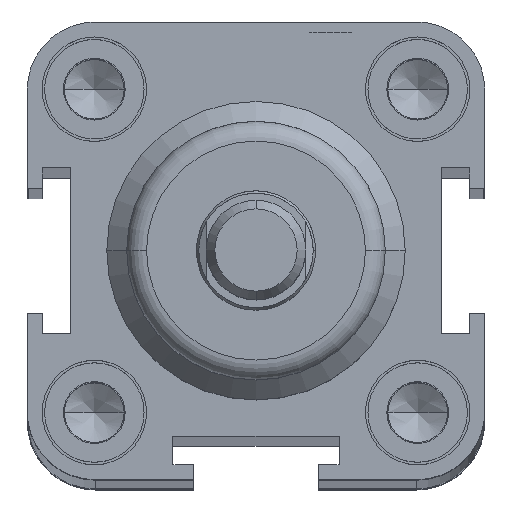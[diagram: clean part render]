
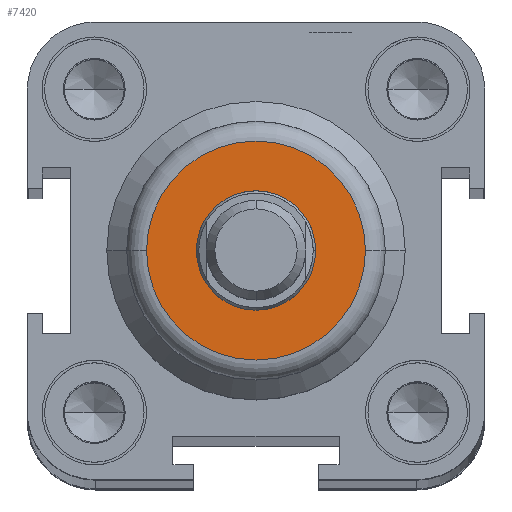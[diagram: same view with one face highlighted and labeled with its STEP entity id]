
A CAD part, top view. The second image highlights one B-rep face of the part: STEP entity #7420.
In plain terms, the highlighted planar face has unit normal (0, 0, 1).
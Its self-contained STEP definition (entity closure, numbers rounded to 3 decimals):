
#1472=CARTESIAN_POINT('',(-11.,0.0,313.));
#1473=VERTEX_POINT('',#1472);
#1481=CARTESIAN_POINT('',(11.,0.,313.0));
#1482=VERTEX_POINT('',#1481);
#1483=CARTESIAN_POINT('',(0.0,0.0,313.));
#1484=DIRECTION('',(0.0,0.0,-1.0));
#1485=DIRECTION('',(-1.0,0.0,0.0));
#1486=AXIS2_PLACEMENT_3D('',#1483,#1484,#1485);
#1487=CIRCLE('',#1486,11.);
#1488=EDGE_CURVE('',#1473,#1482,#1487,.T.);
#1593=CARTESIAN_POINT('',(6.,0.0,313.0));
#1594=VERTEX_POINT('',#1593);
#1610=CARTESIAN_POINT('',(-6.,0.,313.0));
#1611=VERTEX_POINT('',#1610);
#1618=CARTESIAN_POINT('',(0.0,0.0,313.0));
#1619=DIRECTION('',(0.0,0.0,-1.0));
#1620=DIRECTION('',(1.0,0.0,0.0));
#1621=AXIS2_PLACEMENT_3D('',#1618,#1619,#1620);
#1622=CIRCLE('',#1621,6.);
#1623=EDGE_CURVE('',#1594,#1611,#1622,.T.);
#7347=CARTESIAN_POINT('',(0.0,0.0,313.0));
#7348=DIRECTION('',(0.0,0.0,-1.0));
#7349=DIRECTION('',(1.0,0.0,0.0));
#7350=AXIS2_PLACEMENT_3D('',#7347,#7348,#7349);
#7351=CIRCLE('',#7350,6.);
#7352=EDGE_CURVE('',#1611,#1594,#7351,.T.);
#7401=CARTESIAN_POINT('',(-5.5,0.0,313.0));
#7402=DIRECTION('',(0.0,0.0,1.0));
#7403=DIRECTION('',(1.0,0.0,0.0));
#7404=AXIS2_PLACEMENT_3D('',#7401,#7402,#7403);
#7405=PLANE('',#7404);
#7406=ORIENTED_EDGE('',*,*,#1488,.F.);
#7407=CARTESIAN_POINT('',(0.0,0.0,313.));
#7408=DIRECTION('',(0.0,0.0,-1.0));
#7409=DIRECTION('',(-1.0,0.0,0.0));
#7410=AXIS2_PLACEMENT_3D('',#7407,#7408,#7409);
#7411=CIRCLE('',#7410,11.);
#7412=EDGE_CURVE('',#1482,#1473,#7411,.T.);
#7413=ORIENTED_EDGE('',*,*,#7412,.F.);
#7414=EDGE_LOOP('',(#7406,#7413));
#7415=FACE_OUTER_BOUND('',#7414,.T.);
#7416=ORIENTED_EDGE('',*,*,#1623,.T.);
#7417=ORIENTED_EDGE('',*,*,#7352,.T.);
#7418=EDGE_LOOP('',(#7416,#7417));
#7419=FACE_BOUND('',#7418,.T.);
#7420=ADVANCED_FACE('',(#7415,#7419),#7405,.T.);
